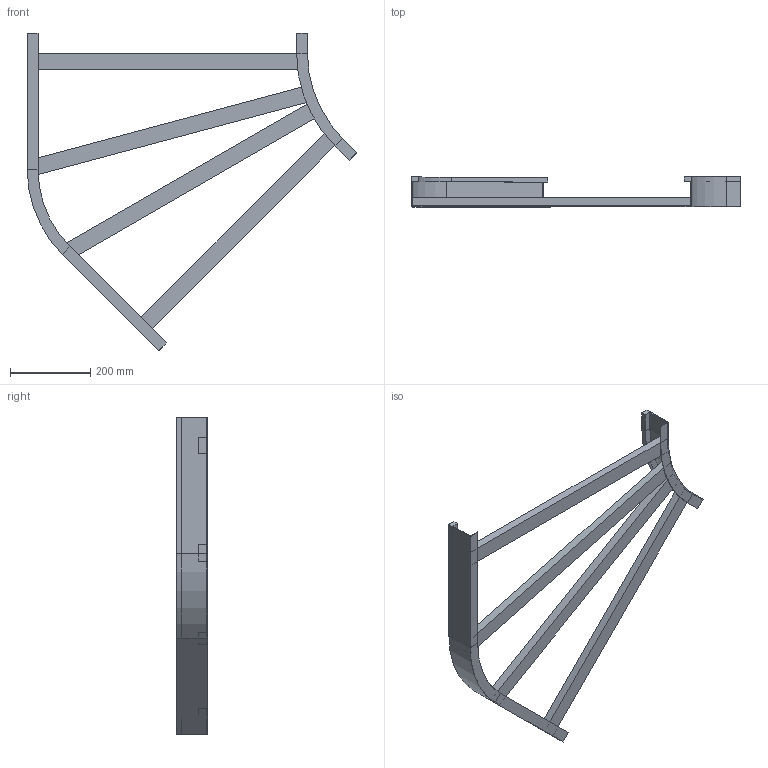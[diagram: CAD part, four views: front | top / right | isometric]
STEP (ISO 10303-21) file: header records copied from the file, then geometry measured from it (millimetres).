
FILE_DESCRIPTION (( 'STEP AP214' ), '1' );
FILE_NAME ('B2_11B3C700.step', '2025-02-21T15:16:47', ( '' ), ( '' ), 'SwSTEP 2.0', 'SolidWorks 2023', '' );
FILE_SCHEMA (( 'AUTOMOTIVE_DESIGN' ));
Length unit declared in the file: millimetre
Products named in the file (5): TRAVERSINO_800_SCANTONATO; B2_LONGH.INTERNO 45°_H75_R300; B2_11B3C700; TRAVERSINO_700; B2_LONGH.ESTERNO 45°_H75_R300+700
Assembly tree (6 placements, depth 2):
  B2_11B3C700
    B2_LONGH.INTERNO 45°_H75_R300
    B2_LONGH.ESTERNO 45°_H75_R300+700
    TRAVERSINO_700  x2
    TRAVERSINO_800_SCANTONATO  x2
Bounding box: 823.22 x 75 x 792.46 mm (x, y, z)
Volume: 2810788.6 mm3; surface area: 649986.3 mm2
Topology: 6 solids, 6 shells, 76 faces, 160 edges, 96 vertices
Faces by surface type: plane 68, cylinder 8
Entity records: 1830 total; most frequent: DIRECTION 298, CARTESIAN_POINT 289, ORIENTED_EDGE 272, EDGE_CURVE 136, LINE 120, VECTOR 120, AXIS2_PLACEMENT_3D 89, VERTEX_POINT 80
